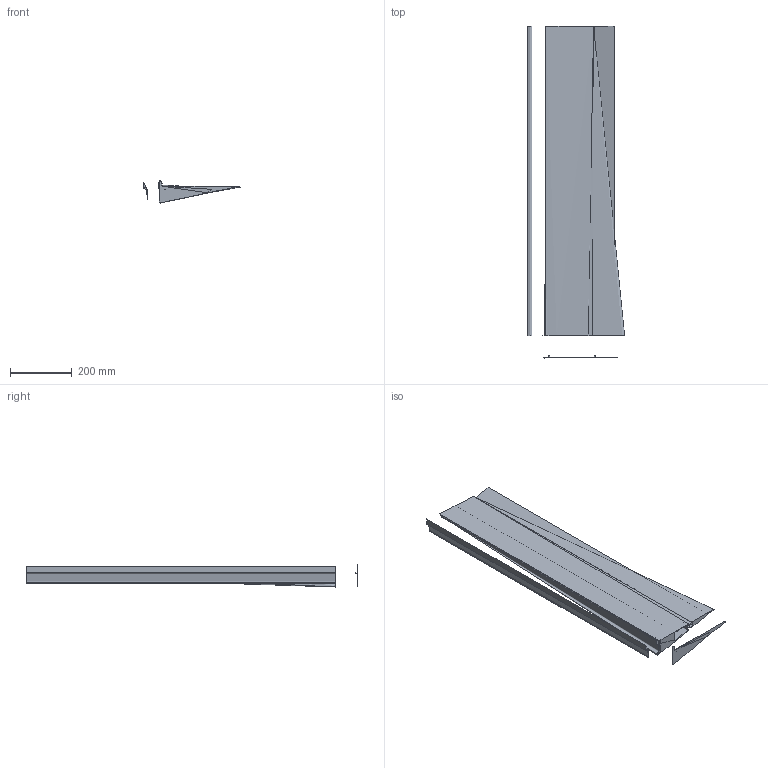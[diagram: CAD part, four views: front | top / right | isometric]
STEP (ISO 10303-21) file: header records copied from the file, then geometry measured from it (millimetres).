
FILE_DESCRIPTION(/* description */ (''),/* implementation_level */ '2;1');
FILE_NAME(/* name */ 'HANGesploso',/* time_stamp */ '2012-05-17T14:49:46+02:00',/* author */ (''),/* organization */ (''),/* preprocessor_version */ 'ST-DEVELOPER v8',/* originating_system */ '',/* authorisation */ '');
FILE_SCHEMA (('AUTOMOTIVE_DESIGN'));
Length unit declared in the file: millimetre
Products named in the file (1): 3
Bounding box: 313.46 x 1072 x 71.15 mm (x, y, z)
Volume: 383121.7 mm3; surface area: 1643274.3 mm2
Topology: 2 solids, 4 shells, 33 faces, 397 edges, 308 vertices
Faces by surface type: bspline 33
Entity records: 4507 total; most frequent: CARTESIAN_POINT 3311, COMPOSITE_CURVE_SEGMENT 256, VECTOR 157, DIRECTION 157, LINE 157, ORIENTED_EDGE 145, EDGE_CURVE 82, VERTEX_POINT 57
